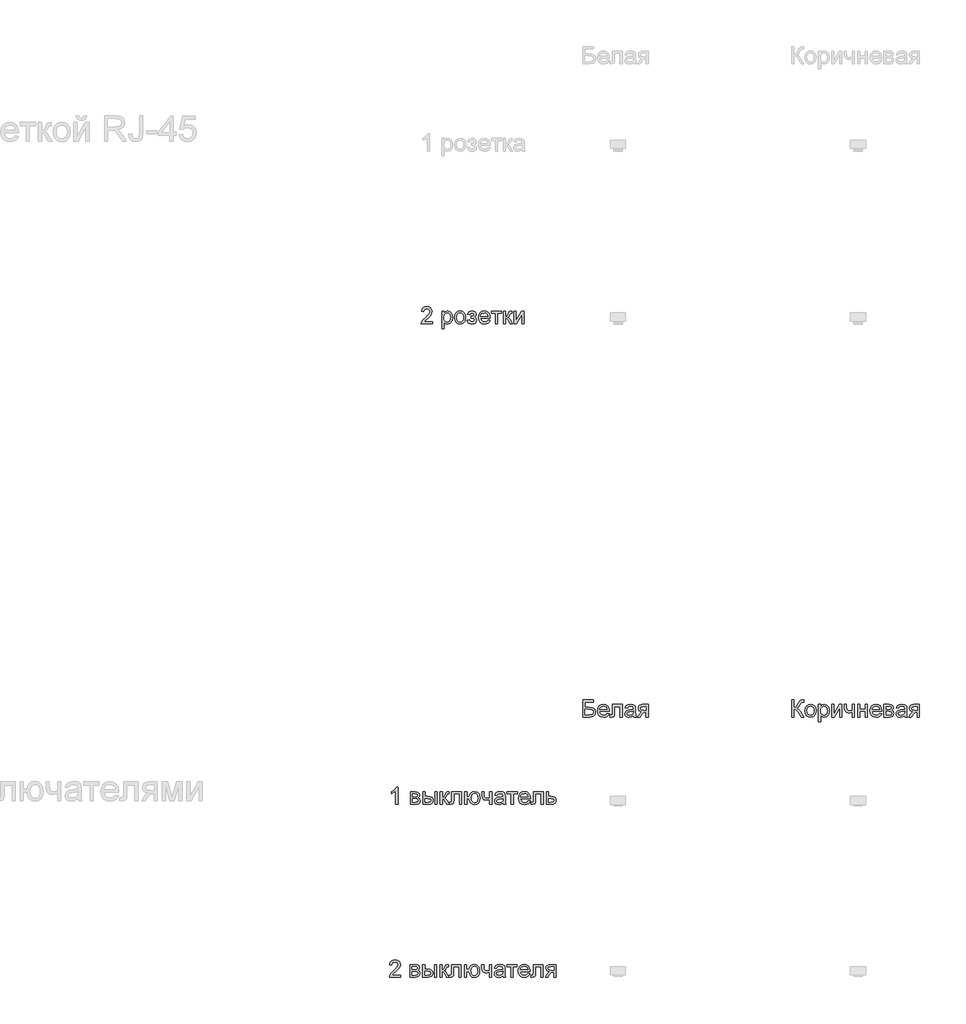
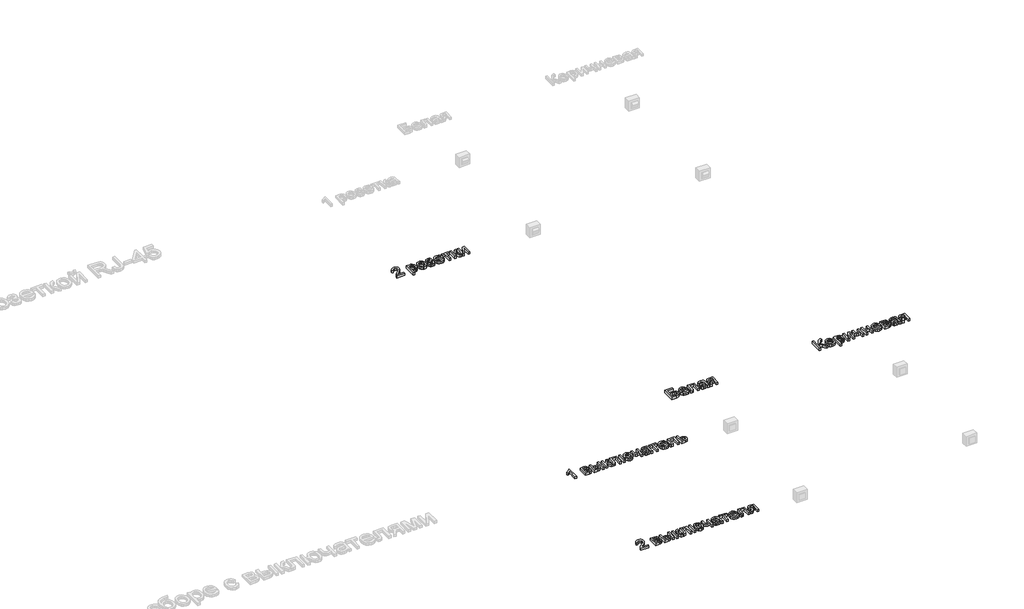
# One storey, part 17 of 48: 5 proxies.
"""IFC4 building model written with IfcOpenShell, lengths in millimetres."""

from ifc_helpers import new_model, si_unit, origin, origin_with_axes, place, context, project, spatial, polyline, outline, extrude, element, save

model = new_model("IFC4")

# Units and contexts
model_context = context("Model", 3, world=origin())
ifc_project = project(units=[si_unit("LENGTHUNIT", "METRE", prefix="MILLI")], contexts=[model_context])

# Site, building, storey
site = spatial("IfcSite", under=ifc_project)
building = spatial("IfcBuilding", under=site)
storey = spatial("IfcBuildingStorey", under=building, Name="Этаж 01", Elevation=0.0)

# Proxies
placement = place(None, origin())
element("IfcBuildingElementProxy", 1, Name="100 мм Arial", ObjectType="100 мм Arial", at=placement, inside=storey, context=model_context, shape_type="SweptSolid", body=[
    extrude(outline(polyline([(58644.580812, -932.0559001), (58644.580812, -944.6129388), (58578.6563585, -944.6129388), (58580.0052591, -935.9554492), (58587.6326791, -922.6258583), (58603.3535031, -908.069994), (58625.0340153, -887.1497712), (58630.4541434, -872.9250007), (58625.3405836, -861.4102943), (58611.9864672, -856.7136675), (58598.0682651, -861.2999297), (58592.7830271, -873.9795958), (58580.2259883, -872.4099659), (58583.2702118, -860.2637287), (58589.8522338, -851.3916413), (58599.6286979, -845.9653818), (58612.2562473, -844.1566287), (58624.9757673, -846.1677169), (58634.7338372, -852.2009817), (58640.9418459, -861.2140905), (58643.0111821, -872.1647113), (58640.7793647, -884.0718252), (58633.3604111, -896.3836093), (58615.3709816, -913.5882239), (58600.9254819, -925.6670161), (58595.2600992, -932.0559001), (58644.580812, -932.0559001)])), origin_with_axes(), (0.0, 0.0, 1.0), 20.0),
    extrude(outline(polyline([(58699.5178566, -972.8662761), (58699.5178566, -870.8403361), (58712.0748954, -870.8403361), (58712.0748954, -883.1521202), (58720.7569105, -872.7410597), (58732.4800834, -869.2707062), (58748.397111, -874.1267486), (58758.7959088, -887.8119588), (58762.3030504, -907.1625517), (58758.3421876, -927.5064261), (58746.8397439, -941.3633146), (58730.9595045, -946.1825687), (58720.0334092, -942.9574699), (58712.0748954, -934.8027523), (58712.0748954, -972.8662761), (58699.5178566, -972.8662761)]), holes=[polyline([(58712.0748954, -908.3152487), (58713.4329931, -919.5724377), (58717.5072862, -927.4451124), (58723.5190911, -932.0804255), (58730.6897243, -933.6255299), (58737.9768535, -932.0252432), (58744.1419426, -927.2243832), (58748.3449944, -919.0635343), (58749.7460117, -907.3832809), (58748.3787169, -896.1874055), (58744.2768327, -888.2043663), (58738.2742248, -883.4219003), (58731.2047591, -881.827745), (58724.1077023, -883.5230679), (58717.8751682, -888.6090364), (58713.5249636, -896.9262352), (58712.0748954, -908.3152487)])]), origin_with_axes(), (0.0, 0.0, 1.0), 20.0),
    extrude(outline(polyline([(58773.2904594, -907.7266375), (58776.0066548, -889.939543), (58784.155241, -877.4376865), (58794.2229449, -871.3124513), (58806.2772116, -869.2707062), (58819.4688468, -871.7569754), (58830.0056003, -879.2157828), (58836.9125847, -891.0585174), (58839.2149129, -906.6965679), (58835.1436855, -929.0392677), (58823.2856225, -941.6821456), (58806.2772116, -946.1825687), (58792.9261609, -943.7054966), (58782.4016701, -936.2742803), (58775.5682621, -924.1832254), (58773.2904594, -907.7266375)]), holes=[polyline([(58785.8474981, -907.702112), (58787.300632, -919.0666), (58791.6600337, -927.1630695), (58798.2205959, -932.0099148), (58806.2772116, -933.6255299), (58814.2970391, -932.0007178), (58820.8453386, -927.1262813), (58825.2047403, -918.9225128), (58826.6578741, -907.3097045), (58825.1955432, -896.2763104), (58820.8085504, -888.2902054), (58814.2510538, -883.4433601), (58806.2772116, -881.827745), (58798.2205959, -883.4372287), (58791.6600337, -888.2656799), (58787.300632, -896.3437554), (58785.8474981, -907.702112)])]), origin_with_axes(), (0.0, 0.0, 1.0), 20.0),
    extrude(outline(polyline([(58870.6075098, -911.6507121), (58870.6075098, -899.0936733), (58880.5157982, -898.603164), (58885.5189934, -895.9912018), (58887.8734381, -890.5342856), (58884.7219157, -884.1944525), (58876.5917236, -881.827745), (58868.1917514, -884.1821898), (58862.7593606, -891.2455241), (58848.632692, -889.6758942), (58858.0749965, -874.3720032), (58875.3163994, -869.2707062), (58885.813299, -870.8250077), (58893.7595501, -875.487912), (58898.7627452, -882.3090573), (58900.4304769, -890.3380818), (58898.057638, -898.1371801), (58890.9391214, -904.1704448), (58899.2409918, -911.9940686), (58902.0001067, -923.2512577), (58900.2496016, -932.4942928), (58894.9980861, -939.8182102), (58886.6011796, -944.5914791), (58875.4145012, -946.1825687), (58864.4730776, -944.7110407), (58856.1006965, -940.2964568), (58850.297358, -932.9388169), (58847.0630621, -922.638121), (58861.1897307, -921.0684912), (58866.8551135, -930.3391174), (58876.6162491, -933.6255299), (58885.7887735, -930.4740075), (58889.443068, -922.4173918), (58887.1744623, -915.8200414), (58882.3429455, -912.2883742), (58873.0600565, -911.5771357), (58870.6075098, -911.6507121)])), origin_with_axes(), (0.0, 0.0, 1.0), 20.0),
    extrude(outline(polyline([(58969.3470373, -922.638121), (58981.6588214, -924.2077508), (58977.2227777, -933.4845085), (58970.144115, -940.4190841), (58960.5822488, -944.7416975), (58948.6965947, -946.1825687), (58933.9629208, -943.6962995), (58922.6260239, -936.2374921), (58915.3971427, -924.2905243), (58912.9875157, -908.3397741), (58915.4216682, -891.8525294), (58922.7241258, -879.5223512), (58933.9077385, -871.8336175), (58947.9853561, -869.2707062), (58961.6245811, -871.8274861), (58972.5230852, -879.4978257), (58979.669193, -891.8034784), (58982.0512289, -908.2661977), (58981.9776525, -911.6507121), (58925.5445544, -911.6507121), (58927.7181239, -921.0500971), (58932.7673043, -927.9601472), (58940.0544335, -932.2091842), (58948.9418493, -933.6255299), (58961.2536334, -931.001305), (58969.3470373, -922.638121)]), holes=[polyline([(58925.5445544, -899.0936733), (58969.4941901, -899.0936733), (58964.4664695, -887.7138569), (58957.1456178, -883.299273), (58947.9363052, -881.827745), (58932.4729987, -886.5243718), (58927.6077593, -892.0150106), (58925.5445544, -899.0936733)])]), origin_with_axes(), (0.0, 0.0, 1.0), 20.0),
    extrude(outline(polyline([(58988.3297483, -870.8403361), (59047.9756824, -870.8403361), (59047.9756824, -883.3973748), (59024.4312347, -883.3973748), (59024.4312347, -944.6129388), (59011.874196, -944.6129388), (59011.874196, -883.3973748), (58988.3297483, -883.3973748), (58988.3297483, -870.8403361)])), origin_with_axes(), (0.0, 0.0, 1.0), 20.0),
    extrude(outline(polyline([(59058.9630914, -870.8403361), (59071.5201301, -870.8403361), (59071.5201301, -902.232933), (59079.9323651, -899.9765901), (59086.8240211, -886.8309401), (59092.5507175, -875.487912), (59097.6029636, -871.7968293), (59106.7877507, -870.8403361), (59109.1912464, -870.8403361), (59109.1912464, -883.4709512), (59105.8067321, -883.3973748), (59099.6753655, -884.72175), (59095.3588834, -892.9868322), (59090.2943746, -901.9263647), (59083.1942521, -906.3041604), (59091.1159777, -911.1908596), (59098.8905506, -921.4854241), (59112.3305061, -944.6129388), (59098.0566847, -944.6129388), (59084.8865093, -921.9759334), (59078.2646334, -912.3987388), (59071.5201301, -910.0810822), (59071.5201301, -944.6129388), (59058.9630914, -944.6129388), (59058.9630914, -870.8403361)])), origin_with_axes(), (0.0, 0.0, 1.0), 20.0),
    extrude(outline(polyline([(59120.1786554, -870.8403361), (59132.7356941, -870.8403361), (59132.7356941, -927.1017559), (59163.5887308, -870.8403361), (59179.8245895, -870.8403361), (59179.8245895, -944.6129388), (59167.2675507, -944.6129388), (59167.2675507, -888.6948756), (59136.6107178, -944.6129388), (59120.1786554, -944.6129388), (59120.1786554, -870.8403361)])), origin_with_axes(), (0.0, 0.0, 1.0), 20.0),
])
element("IfcBuildingElementProxy", 2, Name="100 мм Arial", ObjectType="100 мм Arial", at=placement, inside=storey, context=model_context, shape_type="SweptSolid", body=[
    extrude(outline(polyline([(59522.7568416, -3137.3663988), (59585.5420354, -3137.3663988), (59585.5420354, -3149.9234375), (59535.3138804, -3149.9234375), (59535.3138804, -3179.7464046), (59558.8338026, -3179.7464046), (59579.5578217, -3182.2970531), (59591.8941312, -3191.9355614), (59596.5294444, -3208.4166748), (59593.2307691, -3222.7272844), (59583.3837944, -3233.6043287), (59561.0901455, -3237.8227089), (59522.7568416, -3237.8227089), (59522.7568416, -3137.3663988)]), holes=[polyline([(59535.3138804, -3225.2656701), (59562.218317, -3225.2656701), (59578.5277521, -3221.1208663), (59582.6112422, -3215.9398616), (59583.9724056, -3208.6864549), (59580.8576714, -3198.8517429), (59572.187919, -3193.6032931), (59553.2665217, -3192.3034434), (59535.3138804, -3192.3034434), (59535.3138804, -3225.2656701)])]), origin_with_axes(), (0.0, 0.0, 1.0), 20.0),
    extrude(outline(polyline([(59663.876375, -3215.8478911), (59676.1881591, -3217.4175209), (59671.7521153, -3226.6942786), (59664.6734526, -3233.6288542), (59655.1115864, -3237.9514676), (59643.2259323, -3239.3923388), (59628.4922584, -3236.9060696), (59617.1553616, -3229.4472622), (59609.9264804, -3217.5002944), (59607.5168533, -3201.5495442), (59609.9510058, -3185.0622994), (59617.2534634, -3172.7321212), (59628.4370761, -3165.0433875), (59642.5146938, -3162.4804763), (59656.1539187, -3165.0372562), (59667.0524228, -3172.7075958), (59674.1985306, -3185.0132485), (59676.5805665, -3201.4759678), (59676.5069901, -3204.8604821), (59620.0738921, -3204.8604821), (59622.2474615, -3214.2598671), (59627.2966419, -3221.1699173), (59634.5837711, -3225.4189543), (59643.471187, -3226.8353), (59655.7829711, -3224.2110751), (59663.876375, -3215.8478911)]), holes=[polyline([(59620.0738921, -3192.3034434), (59664.0235278, -3192.3034434), (59658.9958072, -3180.923627), (59651.6749554, -3176.5090431), (59642.4656428, -3175.0375151), (59627.0023363, -3179.7341419), (59622.1370969, -3185.2247807), (59620.0738921, -3192.3034434)])]), origin_with_axes(), (0.0, 0.0, 1.0), 20.0),
    extrude(outline(polyline([(59695.4161247, -3164.0501062), (59751.9227991, -3164.0501062), (59751.9227991, -3237.7491325), (59739.3657604, -3237.7491325), (59739.3657604, -3176.6071449), (59707.9731634, -3176.6071449), (59707.9731634, -3211.8011891), (59707.1270349, -3228.0370478), (59702.479459, -3234.8919157), (59691.4920501, -3237.8227089), (59681.2894561, -3237.1850468), (59681.2894561, -3225.2656701), (59686.9057879, -3225.2656701), (59692.5834333, -3224.493118), (59694.8520389, -3222.0405713), (59695.4161247, -3211.0899506), (59695.4161247, -3164.0501062)])), origin_with_axes(), (0.0, 0.0, 1.0), 20.0),
    extrude(outline(polyline([(59817.8472527, -3228.4049298), (59805.6703586, -3236.9152667), (59792.2181403, -3239.3923388), (59781.7243064, -3237.9024167), (59773.9834561, -3233.4326504), (59769.2101872, -3226.6452276), (59767.6190976, -3218.2023358), (59770.0225933, -3208.269522), (59776.3379009, -3201.0590349), (59785.1302806, -3196.9387565), (59795.9950622, -3195.0502956), (59817.7736763, -3190.7338135), (59817.8472527, -3187.9379104), (59814.3891619, -3178.6672841), (59800.507748, -3175.0375151), (59787.8035564, -3177.4532735), (59781.7457662, -3186.024924), (59769.1887274, -3184.4552941), (59774.6211182, -3172.192561), (59785.5594762, -3165.0065993), (59802.1264287, -3162.4804763), (59817.3444806, -3164.7122937), (59825.9406566, -3170.3163628), (59829.7911548, -3178.8389624), (59830.4042914, -3189.8263713), (59830.4042914, -3205.4490933), (59831.0419536, -3227.2644957), (59833.5435511, -3237.8227089), (59820.9865124, -3237.8227089), (59817.8472527, -3228.4049298)]), holes=[polyline([(59817.8472527, -3203.2908523), (59797.5892175, -3207.1413505), (59786.7857495, -3209.1769642), (59781.892919, -3212.4879022), (59780.1761364, -3217.3194191), (59783.91627, -3224.1129732), (59794.8914162, -3226.8353), (59807.5956077, -3223.8309304), (59815.7871135, -3216.5591296), (59817.7736763, -3206.8470449), (59817.8472527, -3203.2908523)])]), origin_with_axes(), (0.0, 0.0, 1.0), 20.0),
    extrude(outline(polyline([(59904.1768942, -3164.0501062), (59904.1768942, -3237.8227089), (59891.6198554, -3237.8227089), (59891.6198554, -3209.5693717), (59884.7772503, -3209.5693717), (59875.4575731, -3211.163527), (59866.7019816, -3221.8811558), (59856.6955914, -3237.8227089), (59842.1765153, -3237.8227089), (59854.782605, -3217.6627756), (59865.4757083, -3207.2149269), (59856.8917951, -3204.5845707), (59850.8585304, -3199.5875069), (59846.1005899, -3185.3627364), (59847.725402, -3176.7665604), (59852.5998385, -3169.9607435), (59860.5522209, -3165.5277655), (59871.4108712, -3164.0501062), (59904.1768942, -3164.0501062)]), holes=[polyline([(59891.6198554, -3176.6071449), (59875.0651657, -3176.6071449), (59861.6619983, -3179.5134127), (59858.6576287, -3186.3192296), (59863.0844753, -3194.4248962), (59878.7685111, -3197.0123329), (59891.6198554, -3197.0123329), (59891.6198554, -3176.6071449)])]), origin_with_axes(), (0.0, 0.0, 1.0), 20.0),
])
element("IfcBuildingElementProxy", 3, Name="100 мм Arial", ObjectType="100 мм Arial", at=placement, inside=storey, context=model_context, shape_type="SweptSolid", body=[
    extrude(outline(polyline([(60740.6797795, -3137.3663988), (60753.2368182, -3137.3663988), (60753.2368182, -3181.3160345), (60767.2776477, -3177.9928338), (60777.0755715, -3161.1806266), (60784.0040158, -3147.1397971), (60791.852165, -3140.1868274), (60803.0725658, -3137.3663988), (60811.3131225, -3137.5135516), (60811.3131225, -3150.0705903), (60808.5417448, -3149.9970139), (60805.7703671, -3149.9234375), (60795.9601806, -3152.9400699), (60788.5044388, -3165.8649907), (60779.6139573, -3181.6103401), (60770.9442049, -3186.8097389), (60780.6378955, -3192.4873844), (60790.196696, -3204.3209219), (60811.3131225, -3237.8227089), (60796.7449955, -3237.8227089), (60778.890456, -3209.5203208), (60766.3211545, -3194.7437273), (60753.2368182, -3190.7338135), (60753.2368182, -3237.8227089), (60740.6797795, -3237.8227089), (60740.6797795, -3137.3663988)])), origin_with_axes(), (0.0, 0.0, 1.0), 20.0),
    extrude(outline(polyline([(60817.5916419, -3200.9364075), (60820.3078373, -3183.1493131), (60828.4564235, -3170.6474566), (60838.5241274, -3164.5222214), (60850.5783941, -3162.4804763), (60863.7700294, -3164.9667455), (60874.3067828, -3172.4255529), (60881.2137673, -3184.2682875), (60883.5160955, -3199.9063379), (60879.444868, -3222.2490378), (60867.5868051, -3234.8919157), (60850.5783941, -3239.3923388), (60837.2273434, -3236.9152667), (60826.7028527, -3229.4840504), (60819.8694446, -3217.3929955), (60817.5916419, -3200.9364075)]), holes=[polyline([(60830.1486807, -3200.9118821), (60831.6018146, -3212.27637), (60835.9612162, -3220.3728396), (60842.5217785, -3225.2196849), (60850.5783941, -3226.8353), (60858.5982216, -3225.2104878), (60865.1465212, -3220.3360514), (60869.5059228, -3212.1322829), (60870.9590567, -3200.5194746), (60869.4967258, -3189.4860804), (60865.109733, -3181.4999755), (60858.5522364, -3176.6531302), (60850.5783941, -3175.0375151), (60842.5217785, -3176.6469988), (60835.9612162, -3181.47545), (60831.6018146, -3189.5535255), (60830.1486807, -3200.9118821)])]), origin_with_axes(), (0.0, 0.0, 1.0), 20.0),
    extrude(outline(polyline([(60897.6427641, -3266.0760461), (60897.6427641, -3164.0501062), (60910.1998028, -3164.0501062), (60910.1998028, -3176.3618903), (60918.8818179, -3165.9508298), (60930.6049908, -3162.4804763), (60946.5220185, -3167.3365186), (60956.9208162, -3181.0217289), (60960.4279579, -3200.3723218), (60956.4670951, -3220.7161961), (60944.9646514, -3234.5730846), (60929.0844119, -3239.3923388), (60918.1583167, -3236.1672399), (60910.1998028, -3228.0125224), (60910.1998028, -3266.0760461), (60897.6427641, -3266.0760461)]), holes=[polyline([(60910.1998028, -3201.5250187), (60911.5579005, -3212.7822078), (60915.6321936, -3220.6548825), (60921.6439986, -3225.2901956), (60928.8146318, -3226.8353), (60936.101761, -3225.2350133), (60942.2668501, -3220.4341533), (60946.4699019, -3212.2733044), (60947.8709191, -3200.593051), (60946.5036244, -3189.3971756), (60942.4017401, -3181.4141363), (60936.3991323, -3176.6316704), (60929.3296666, -3175.0375151), (60922.2326098, -3176.7328379), (60916.0000756, -3181.8188065), (60911.649871, -3190.1360053), (60910.1998028, -3201.5250187)])]), origin_with_axes(), (0.0, 0.0, 1.0), 20.0),
    extrude(outline(polyline([(60974.5546265, -3164.0501062), (60987.1116653, -3164.0501062), (60987.1116653, -3220.3115259), (61017.964702, -3164.0501062), (61034.2005607, -3164.0501062), (61034.2005607, -3237.8227089), (61021.6435219, -3237.8227089), (61021.6435219, -3181.9046456), (60990.986689, -3237.8227089), (60974.5546265, -3237.8227089), (60974.5546265, -3164.0501062)])), origin_with_axes(), (0.0, 0.0, 1.0), 20.0),
    extrude(outline(polyline([(61048.3272293, -3164.0501062), (61060.8842681, -3164.0501062), (61060.8842681, -3178.2013002), (61061.9020749, -3191.4695775), (61066.7949054, -3198.6555392), (61076.5069901, -3201.7212225), (61093.8464948, -3197.9197752), (61093.8464948, -3164.0501062), (61106.4035336, -3164.0501062), (61106.4035336, -3237.8227089), (61093.8464948, -3237.8227089), (61093.8464948, -3209.9617791), (61073.1470012, -3214.2782612), (61058.909968, -3209.7778382), (61050.5345213, -3198.753641), (61048.3272293, -3184.4062432), (61048.3272293, -3164.0501062)])), origin_with_axes(), (0.0, 0.0, 1.0), 20.0),
    extrude(outline(polyline([(61125.2390917, -3164.0501062), (61137.7961305, -3164.0501062), (61137.7961305, -3192.3034434), (61170.7583573, -3192.3034434), (61170.7583573, -3164.0501062), (61183.3153961, -3164.0501062), (61183.3153961, -3237.8227089), (61170.7583573, -3237.8227089), (61170.7583573, -3204.8604821), (61137.7961305, -3204.8604821), (61137.7961305, -3237.8227089), (61125.2390917, -3237.8227089), (61125.2390917, -3164.0501062)])), origin_with_axes(), (0.0, 0.0, 1.0), 20.0),
    extrude(outline(polyline([(61253.8015863, -3215.8478911), (61266.1133704, -3217.4175209), (61261.6773267, -3226.6942786), (61254.598664, -3233.6288542), (61245.0367978, -3237.9514676), (61233.1511437, -3239.3923388), (61218.4174698, -3236.9060696), (61207.0805729, -3229.4472622), (61199.8516917, -3217.5002944), (61197.4420647, -3201.5495442), (61199.8762172, -3185.0622994), (61207.1786748, -3172.7321212), (61218.3622875, -3165.0433875), (61232.4399051, -3162.4804763), (61246.0791301, -3165.0372562), (61256.9776342, -3172.7075958), (61264.123742, -3185.0132485), (61266.5057779, -3201.4759678), (61266.4322015, -3204.8604821), (61209.9991034, -3204.8604821), (61212.1726729, -3214.2598671), (61217.2218533, -3221.1699173), (61224.5089825, -3225.4189543), (61233.3963983, -3226.8353), (61245.7081824, -3224.2110751), (61253.8015863, -3215.8478911)]), holes=[polyline([(61209.9991034, -3192.3034434), (61253.9487391, -3192.3034434), (61248.9210185, -3180.923627), (61241.6001668, -3176.5090431), (61232.3908542, -3175.0375151), (61216.9275477, -3179.7341419), (61212.0623083, -3185.2247807), (61209.9991034, -3192.3034434)])]), origin_with_axes(), (0.0, 0.0, 1.0), 20.0),
    extrude(outline(polyline([(61279.0628167, -3164.0501062), (61306.7275427, -3164.0501062), (61321.8965436, -3165.7301006), (61330.4314059, -3171.8859926), (61333.9998613, -3182.6158842), (61331.8416202, -3191.3346875), (61325.3423717, -3197.5518932), (61333.7791321, -3204.3577101), (61337.139121, -3216.1912476), (61335.0115368, -3225.7623108), (61329.9531593, -3232.5006827), (61321.9455946, -3236.4922024), (61310.9704484, -3237.8227089), (61279.0628167, -3237.8227089), (61279.0628167, -3164.0501062)]), holes=[polyline([(61291.6198554, -3192.3034434), (61304.0297414, -3192.3034434), (61314.2691236, -3191.6657813), (61319.2477933, -3189.1151328), (61321.4428225, -3184.5043451), (61317.5923243, -3178.348453), (61304.4221489, -3176.6071449), (61291.6198554, -3176.6071449), (61291.6198554, -3192.3034434)]), polyline([(61291.6198554, -3225.2656701), (61307.0218483, -3225.2656701), (61320.6825331, -3222.9970645), (61324.5820822, -3215.161178), (61322.4361039, -3209.1156506), (61316.8442976, -3205.5962461), (61305.795575, -3204.8604821), (61291.6198554, -3204.8604821), (61291.6198554, -3225.2656701)])]), origin_with_axes(), (0.0, 0.0, 1.0), 20.0),
    extrude(outline(polyline([(61399.9243148, -3228.4049298), (61387.7474208, -3236.9152667), (61374.2952025, -3239.3923388), (61363.8013686, -3237.9024167), (61356.0605183, -3233.4326504), (61351.2872494, -3226.6452276), (61349.6961597, -3218.2023358), (61352.0996554, -3208.269522), (61358.414963, -3201.0590349), (61367.2073427, -3196.9387565), (61378.0721243, -3195.0502956), (61399.8507384, -3190.7338135), (61399.9243148, -3187.9379104), (61396.4662241, -3178.6672841), (61382.5848101, -3175.0375151), (61369.8806185, -3177.4532735), (61363.8228284, -3186.024924), (61351.2657896, -3184.4552941), (61356.6981804, -3172.192561), (61367.6365384, -3165.0065993), (61384.2034909, -3162.4804763), (61399.4215428, -3164.7122937), (61408.0177187, -3170.3163628), (61411.8682169, -3178.8389624), (61412.4813536, -3189.8263713), (61412.4813536, -3205.4490933), (61413.1190157, -3227.2644957), (61415.6206133, -3237.8227089), (61403.0635745, -3237.8227089), (61399.9243148, -3228.4049298)]), holes=[polyline([(61399.9243148, -3203.2908523), (61379.6662796, -3207.1413505), (61368.8628117, -3209.1769642), (61363.9699812, -3212.4879022), (61362.2531985, -3217.3194191), (61365.9933321, -3224.1129732), (61376.9684783, -3226.8353), (61389.6726699, -3223.8309304), (61397.8641756, -3216.5591296), (61399.8507384, -3206.8470449), (61399.9243148, -3203.2908523)])]), origin_with_axes(), (0.0, 0.0, 1.0), 20.0),
    extrude(outline(polyline([(61486.2539563, -3164.0501062), (61486.2539563, -3237.8227089), (61473.6969176, -3237.8227089), (61473.6969176, -3209.5693717), (61466.8543125, -3209.5693717), (61457.5346353, -3211.163527), (61448.7790438, -3221.8811558), (61438.7726535, -3237.8227089), (61424.2535774, -3237.8227089), (61436.8596671, -3217.6627756), (61447.5527705, -3207.2149269), (61438.9688572, -3204.5845707), (61432.9355925, -3199.5875069), (61428.177652, -3185.3627364), (61429.8024642, -3176.7665604), (61434.6769006, -3169.9607435), (61442.6292831, -3165.5277655), (61453.4879333, -3164.0501062), (61486.2539563, -3164.0501062)]), holes=[polyline([(61473.6969176, -3176.6071449), (61457.1422278, -3176.6071449), (61443.7390604, -3179.5134127), (61440.7346908, -3186.3192296), (61445.1615375, -3194.4248962), (61460.8455732, -3197.0123329), (61473.6969176, -3197.0123329), (61473.6969176, -3176.6071449)])]), origin_with_axes(), (0.0, 0.0, 1.0), 20.0),
])
element("IfcBuildingElementProxy", 4, Name="100 мм Arial", ObjectType="100 мм Arial", at=placement, inside=storey, context=model_context, shape_type="SweptSolid", body=[
    extrude(outline(polyline([(58443.6681917, -3747.1435879), (58431.1111529, -3747.1435879), (58431.1111529, -3668.8582993), (58419.2163017, -3677.3318479), (58405.9970754, -3683.671681), (58405.9970754, -3671.8013553), (58424.4034379, -3660.0536569), (58435.5747878, -3646.6872777), (58443.6681917, -3646.6872777), (58443.6681917, -3747.1435879)])), origin_with_axes(), (0.0, 0.0, 1.0), 20.0),
    extrude(outline(polyline([(58515.8711646, -3673.3709851), (58543.5358906, -3673.3709851), (58558.7048916, -3675.0509795), (58567.2397539, -3681.2068716), (58570.8082092, -3691.9367631), (58568.6499682, -3700.6555664), (58562.1507196, -3706.8727721), (58570.58748, -3713.678589), (58573.9474689, -3725.5121265), (58571.8198847, -3735.0831898), (58566.7615073, -3741.8215617), (58558.7539425, -3745.8130813), (58547.7787963, -3747.1435879), (58515.8711646, -3747.1435879), (58515.8711646, -3673.3709851)]), holes=[polyline([(58528.4282034, -3701.6243223), (58540.8380893, -3701.6243223), (58551.0774715, -3700.9866602), (58556.0561412, -3698.4360117), (58558.2511705, -3693.825224), (58554.4006722, -3687.669332), (58541.2304968, -3685.9280239), (58528.4282034, -3685.9280239), (58528.4282034, -3701.6243223)]), polyline([(58528.4282034, -3734.5865491), (58543.8301962, -3734.5865491), (58557.490881, -3732.3179435), (58561.3904301, -3724.482057), (58559.2444518, -3718.4365295), (58553.6526455, -3714.9171251), (58542.6039229, -3714.1813611), (58528.4282034, -3714.1813611), (58528.4282034, -3734.5865491)])]), origin_with_axes(), (0.0, 0.0, 1.0), 20.0),
    extrude(outline(polyline([(58589.6437674, -3673.3709851), (58602.2008061, -3673.3709851), (58602.2008061, -3700.0546925), (58617.7254263, -3700.0546925), (58631.1439221, -3701.627388), (58641.085933, -3706.3454746), (58647.2387594, -3713.8288075), (58649.2897015, -3723.697242), (58647.5698532, -3732.6827598), (58642.4103082, -3740.2641946), (58633.4738414, -3745.4237395), (58620.4232276, -3747.1435879), (58589.6437674, -3747.1435879), (58589.6437674, -3673.3709851)]), holes=[polyline([(58602.2008061, -3734.5865491), (58615.1012014, -3734.5865491), (58631.7539931, -3731.9500615), (58636.7326628, -3723.7217675), (58633.0415801, -3715.9962456), (58616.7444077, -3712.6117313), (58602.2008061, -3712.6117313), (58602.2008061, -3734.5865491)])]), origin_with_axes(), (0.0, 0.0, 1.0), 20.0),
    extrude(outline(polyline([(58658.7074806, -3673.3709851), (58671.2645194, -3673.3709851), (58671.2645194, -3747.1435879), (58658.7074806, -3747.1435879), (58658.7074806, -3673.3709851)])), origin_with_axes(), (0.0, 0.0, 1.0), 20.0),
    extrude(outline(polyline([(58690.1000775, -3673.3709851), (58702.6571163, -3673.3709851), (58702.6571163, -3704.763582), (58711.0693512, -3702.5072391), (58717.9610073, -3689.3615892), (58723.6877037, -3678.018561), (58728.7399498, -3674.3274783), (58737.9247369, -3673.3709851), (58740.3282326, -3673.3709851), (58740.3282326, -3686.0016003), (58736.9437182, -3685.9280239), (58730.8123517, -3687.252399), (58726.4958696, -3695.5174812), (58721.4313608, -3704.4570137), (58714.3312383, -3708.8348094), (58722.2529639, -3713.7215086), (58730.0275367, -3724.0160731), (58743.4674923, -3747.1435879), (58729.1936709, -3747.1435879), (58716.0234955, -3724.5065824), (58709.4016195, -3714.9293878), (58702.6571163, -3712.6117313), (58702.6571163, -3747.1435879), (58690.1000775, -3747.1435879), (58690.1000775, -3673.3709851)])), origin_with_axes(), (0.0, 0.0, 1.0), 20.0),
    extrude(outline(polyline([(58757.5941609, -3673.3709851), (58814.1008354, -3673.3709851), (58814.1008354, -3747.0700115), (58801.5437966, -3747.0700115), (58801.5437966, -3685.9280239), (58770.1511997, -3685.9280239), (58770.1511997, -3721.1220681), (58769.3050711, -3737.3579268), (58764.6574952, -3744.2127946), (58753.6700863, -3747.1435879), (58743.4674923, -3746.5059257), (58743.4674923, -3734.5865491), (58749.0838241, -3734.5865491), (58754.7614695, -3733.8139969), (58757.0300752, -3731.3614503), (58757.5941609, -3720.4108295), (58757.5941609, -3673.3709851)])), origin_with_axes(), (0.0, 0.0, 1.0), 20.0),
    extrude(outline(polyline([(58832.9363935, -3673.3709851), (58845.4934323, -3673.3709851), (58845.4934323, -3701.6243223), (58859.6201009, -3701.6243223), (58862.8789222, -3688.8220289), (58869.3689738, -3679.4533008), (58878.6794539, -3673.7143416), (58890.3995612, -3671.8013553), (58907.7758541, -3676.3017783), (58918.2727537, -3688.6994016), (58922.4052947, -3709.9875064), (58920.2685135, -3726.7383999), (58913.8581697, -3738.8785057), (58903.7874001, -3746.2545397), (58890.6693413, -3748.7132177), (58878.4096738, -3746.4078239), (58868.853939, -3739.4916424), (58862.4435952, -3728.5532844), (58859.6201009, -3714.1813611), (58845.4934323, -3714.1813611), (58845.4934323, -3747.1435879), (58832.9363935, -3747.1435879), (58832.9363935, -3673.3709851)]), holes=[polyline([(58891.2089016, -3684.358394), (58883.2044025, -3685.9832062), (58877.1925975, -3690.8576426), (58872.1771397, -3709.0800641), (58873.4402012, -3721.2171043), (58877.2293857, -3729.6201422), (58883.1338918, -3734.5221697), (58890.7429177, -3736.1561789), (58898.3734034, -3734.6447971), (58904.4894416, -3730.1106515), (58908.5085524, -3722.2103856), (58909.848256, -3710.600643), (58905.2129428, -3690.9189563), (58899.3942759, -3685.9985346), (58891.2089016, -3684.358394)])]), origin_with_axes(), (0.0, 0.0, 1.0), 20.0),
    extrude(outline(polyline([(58933.3927037, -3673.3709851), (58945.9497424, -3673.3709851), (58945.9497424, -3687.5221792), (58946.9675493, -3700.7904565), (58951.8603798, -3707.9764181), (58961.5724645, -3711.0421014), (58978.9119692, -3707.2406541), (58978.9119692, -3673.3709851), (58991.469008, -3673.3709851), (58991.469008, -3747.1435879), (58978.9119692, -3747.1435879), (58978.9119692, -3719.2826581), (58958.2124756, -3723.5991402), (58943.9754424, -3719.0987171), (58935.5999956, -3708.07452), (58933.3927037, -3693.7271222), (58933.3927037, -3673.3709851)])), origin_with_axes(), (0.0, 0.0, 1.0), 20.0),
    extrude(outline(polyline([(59057.3934615, -3737.7258088), (59045.2165675, -3746.2361456), (59031.7643492, -3748.7132177), (59021.2705153, -3747.2232956), (59013.5296649, -3742.7535294), (59008.7563961, -3735.9661066), (59007.1653064, -3727.5232148), (59009.5688021, -3717.5904009), (59015.8841097, -3710.3799138), (59024.6764894, -3706.2596355), (59035.541271, -3704.3711746), (59057.3198851, -3700.0546925), (59057.3934615, -3697.2587893), (59053.9353708, -3687.988163), (59040.0539568, -3684.358394), (59027.3497652, -3686.7741525), (59021.291975, -3695.3458029), (59008.7349363, -3693.7761731), (59014.1673271, -3681.5134399), (59025.1056851, -3674.3274783), (59041.6726376, -3671.8013553), (59056.8906894, -3674.0331727), (59065.4868654, -3679.6372417), (59069.3373636, -3688.1598413), (59069.9505003, -3699.1472502), (59069.9505003, -3714.7699723), (59070.5881624, -3736.5853746), (59073.08976, -3747.1435879), (59060.5327212, -3747.1435879), (59057.3934615, -3737.7258088)]), holes=[polyline([(59057.3934615, -3712.6117313), (59037.1354263, -3716.4622295), (59026.3319584, -3718.4978432), (59021.4391278, -3721.8087811), (59019.7223452, -3726.640298), (59023.4624788, -3733.4338522), (59034.437625, -3736.1561789), (59047.1418166, -3733.1518093), (59055.3333223, -3725.8800085), (59057.3198851, -3716.1679239), (59057.3934615, -3712.6117313)])]), origin_with_axes(), (0.0, 0.0, 1.0), 20.0),
    extrude(outline(polyline([(59080.9379092, -3673.3709851), (59140.5838434, -3673.3709851), (59140.5838434, -3685.9280239), (59117.0393957, -3685.9280239), (59117.0393957, -3747.1435879), (59104.4823569, -3747.1435879), (59104.4823569, -3685.9280239), (59080.9379092, -3685.9280239), (59080.9379092, -3673.3709851)])), origin_with_axes(), (0.0, 0.0, 1.0), 20.0),
    extrude(outline(polyline([(59203.2218844, -3725.16877), (59215.5336685, -3726.7383999), (59211.0976248, -3736.0151575), (59204.0189621, -3742.9497331), (59194.4570959, -3747.2723466), (59182.5714417, -3748.7132177), (59167.8377678, -3746.2269486), (59156.500871, -3738.7681411), (59149.2719898, -3726.8211733), (59146.8623627, -3710.8704231), (59149.2965153, -3694.3831784), (59156.5989729, -3682.0530002), (59167.7825855, -3674.3642665), (59181.8602032, -3671.8013553), (59195.4994282, -3674.3581351), (59206.3979323, -3682.0284747), (59213.54404, -3694.3341275), (59215.926076, -3710.7968467), (59215.8524996, -3714.1813611), (59159.4194015, -3714.1813611), (59161.592971, -3723.5807461), (59166.6421513, -3730.4907962), (59173.9292805, -3734.7398333), (59182.8166964, -3736.1561789), (59195.1284805, -3733.531954), (59203.2218844, -3725.16877)]), holes=[polyline([(59159.4194015, -3701.6243223), (59203.3690372, -3701.6243223), (59198.3413166, -3690.2445059), (59191.0204649, -3685.829922), (59181.8111523, -3684.358394), (59166.3478457, -3689.0550208), (59161.4826064, -3694.5456596), (59159.4194015, -3701.6243223)])]), origin_with_axes(), (0.0, 0.0, 1.0), 20.0),
    extrude(outline(polyline([(59234.7616341, -3673.3709851), (59291.2683086, -3673.3709851), (59291.2683086, -3747.0700115), (59278.7112698, -3747.0700115), (59278.7112698, -3685.9280239), (59247.3186729, -3685.9280239), (59247.3186729, -3721.1220681), (59246.4725443, -3737.3579268), (59241.8249684, -3744.2127946), (59230.8375595, -3747.1435879), (59220.6349655, -3746.5059257), (59220.6349655, -3734.5865491), (59226.2512973, -3734.5865491), (59231.9289428, -3733.8139969), (59234.1975484, -3731.3614503), (59234.7616341, -3720.4108295), (59234.7616341, -3673.3709851)])), origin_with_axes(), (0.0, 0.0, 1.0), 20.0),
    extrude(outline(polyline([(59310.1038667, -3673.3709851), (59322.6609055, -3673.3709851), (59322.6609055, -3700.0546925), (59337.1309306, -3700.0546925), (59349.6757067, -3701.627388), (59358.9585957, -3706.3454746), (59364.6975548, -3713.8288075), (59366.6105412, -3723.697242), (59364.9826634, -3732.6827598), (59360.0990299, -3740.2641946), (59351.6346783, -3745.4237395), (59339.2646462, -3747.1435879), (59310.1038667, -3747.1435879), (59310.1038667, -3673.3709851)]), holes=[polyline([(59322.6609055, -3734.5865491), (59334.3840784, -3734.5865491), (59349.5285539, -3731.9500615), (59354.0535024, -3723.7217675), (59350.7057763, -3715.9962456), (59335.8801319, -3712.6117313), (59322.6609055, -3712.6117313), (59322.6609055, -3734.5865491)])]), origin_with_axes(), (0.0, 0.0, 1.0), 20.0),
])
element("IfcBuildingElementProxy", 5, Name="100 мм Arial", ObjectType="100 мм Arial", at=placement, inside=storey, context=model_context, shape_type="SweptSolid", body=[
    extrude(outline(polyline([(58459.3644901, -4741.7537938), (58459.3644901, -4754.3108326), (58393.4400366, -4754.3108326), (58394.7889373, -4745.6533429), (58402.4163573, -4732.323752), (58418.1371812, -4717.7678877), (58439.8176935, -4696.8476649), (58445.2378215, -4682.6228944), (58440.1242618, -4671.108188), (58426.7701454, -4666.4115612), (58412.8519432, -4670.9978234), (58407.5667052, -4683.6774895), (58395.0096665, -4682.1078596), (58398.05389, -4669.9616224), (58404.635912, -4661.089535), (58414.412376, -4655.6632756), (58427.0399255, -4653.8545224), (58439.7594455, -4655.8656106), (58449.5175154, -4661.8988754), (58455.7255241, -4670.9119843), (58457.7948603, -4681.862605), (58455.5630429, -4693.7697189), (58448.1440893, -4706.081503), (58430.1546597, -4723.2861176), (58415.7091601, -4735.3649098), (58410.0437773, -4741.7537938), (58459.3644901, -4741.7537938)])), origin_with_axes(), (0.0, 0.0, 1.0), 20.0),
    extrude(outline(polyline([(58514.3015348, -4680.5382298), (58541.9662608, -4680.5382298), (58557.1352617, -4682.2182242), (58565.670124, -4688.3741163), (58569.2385794, -4699.1040078), (58567.0803383, -4707.8228111), (58560.5810898, -4714.0400168), (58569.0178502, -4720.8458337), (58572.3778391, -4732.6793712), (58570.2502549, -4742.2504345), (58565.1918774, -4748.9888064), (58557.1843127, -4752.980326), (58546.2091665, -4754.3108326), (58514.3015348, -4754.3108326), (58514.3015348, -4680.5382298)]), holes=[polyline([(58526.8585735, -4708.791567), (58539.2684595, -4708.791567), (58549.5078417, -4708.1539049), (58554.4865114, -4705.6032564), (58556.6815406, -4700.9924687), (58552.8310424, -4694.8365767), (58539.660867, -4693.0952686), (58526.8585735, -4693.0952686), (58526.8585735, -4708.791567)]), polyline([(58526.8585735, -4741.7537938), (58542.2605664, -4741.7537938), (58555.9212511, -4739.4851882), (58559.8208003, -4731.6493017), (58557.674822, -4725.6037742), (58552.0830157, -4722.0843698), (58541.0342931, -4721.3486058), (58526.8585735, -4721.3486058), (58526.8585735, -4741.7537938)])]), origin_with_axes(), (0.0, 0.0, 1.0), 20.0),
    extrude(outline(polyline([(58657.1378508, -4680.5382298), (58669.6948895, -4680.5382298), (58669.6948895, -4754.3108326), (58657.1378508, -4754.3108326), (58657.1378508, -4680.5382298)])), origin_with_axes(), (0.0, 0.0, 1.0), 20.0),
    extrude(outline(polyline([(58588.0741375, -4680.5382298), (58600.6311763, -4680.5382298), (58600.6311763, -4707.2219372), (58616.1557965, -4707.2219372), (58629.5742923, -4708.7946327), (58639.5163032, -4713.5127193), (58645.6691296, -4720.9960522), (58647.7200717, -4730.8644867), (58646.0002234, -4739.8500045), (58640.8406784, -4747.4314392), (58631.9042116, -4752.5909842), (58618.8535978, -4754.3108326), (58588.0741375, -4754.3108326), (58588.0741375, -4680.5382298)]), holes=[polyline([(58600.6311763, -4741.7537938), (58613.5315716, -4741.7537938), (58630.1843632, -4739.1173062), (58635.1630329, -4730.8890122), (58631.4719502, -4723.1634903), (58615.1747778, -4719.7789759), (58600.6311763, -4719.7789759), (58600.6311763, -4741.7537938)])]), origin_with_axes(), (0.0, 0.0, 1.0), 20.0),
    extrude(outline(polyline([(58688.5304477, -4680.5382298), (58701.0874864, -4680.5382298), (58701.0874864, -4711.9308267), (58709.4997214, -4709.6744838), (58716.3913774, -4696.5288338), (58722.1180738, -4685.1858057), (58727.1703199, -4681.494723), (58736.3551071, -4680.5382298), (58738.7586028, -4680.5382298), (58738.7586028, -4693.168845), (58735.3740884, -4693.0952686), (58729.2427218, -4694.4196437), (58724.9262397, -4702.6847259), (58719.8617309, -4711.6242584), (58712.7616084, -4716.0020541), (58720.6833341, -4720.8887533), (58728.4579069, -4731.1833178), (58741.8978624, -4754.3108326), (58727.624041, -4754.3108326), (58714.4538656, -4731.6738271), (58707.8319897, -4722.0966325), (58701.0874864, -4719.7789759), (58701.0874864, -4754.3108326), (58688.5304477, -4754.3108326), (58688.5304477, -4680.5382298)])), origin_with_axes(), (0.0, 0.0, 1.0), 20.0),
    extrude(outline(polyline([(58756.0245311, -4680.5382298), (58812.5312055, -4680.5382298), (58812.5312055, -4754.2372562), (58799.9741667, -4754.2372562), (58799.9741667, -4693.0952686), (58768.5815698, -4693.0952686), (58768.5815698, -4728.2893128), (58767.7354412, -4744.5251715), (58763.0878654, -4751.3800393), (58752.1004564, -4754.3108326), (58741.8978624, -4753.6731704), (58741.8978624, -4741.7537938), (58747.5141942, -4741.7537938), (58753.1918397, -4740.9812416), (58755.4604453, -4738.528695), (58756.0245311, -4727.5780742), (58756.0245311, -4680.5382298)])), origin_with_axes(), (0.0, 0.0, 1.0), 20.0),
    extrude(outline(polyline([(58831.3667637, -4680.5382298), (58843.9238024, -4680.5382298), (58843.9238024, -4708.791567), (58858.0504711, -4708.791567), (58861.3092924, -4695.9892736), (58867.7993439, -4686.6205454), (58877.1098241, -4680.8815863), (58888.8299313, -4678.9685999), (58906.2062242, -4683.469023), (58916.7031238, -4695.8666463), (58920.8356649, -4717.154751), (58918.6988836, -4733.9056446), (58912.2885399, -4746.0457504), (58902.2177703, -4753.4217844), (58889.0997114, -4755.8804624), (58876.840044, -4753.5750686), (58867.2843091, -4746.6588871), (58860.8739654, -4735.7205291), (58858.0504711, -4721.3486058), (58843.9238024, -4721.3486058), (58843.9238024, -4754.3108326), (58831.3667637, -4754.3108326), (58831.3667637, -4680.5382298)]), holes=[polyline([(58889.6392717, -4691.5256387), (58881.6347726, -4693.1504509), (58875.6229677, -4698.0248873), (58870.6075098, -4716.2473088), (58871.8705713, -4728.3843489), (58875.6597559, -4736.7873869), (58881.5642619, -4741.6894144), (58889.1732878, -4743.3234236), (58896.8037736, -4741.8120418), (58902.9198117, -4737.2778962), (58906.9389225, -4729.3776303), (58908.2786261, -4717.7678877), (58903.643313, -4698.086201), (58897.8246461, -4693.1657793), (58889.6392717, -4691.5256387)])]), origin_with_axes(), (0.0, 0.0, 1.0), 20.0),
    extrude(outline(polyline([(58931.8230738, -4680.5382298), (58944.3801126, -4680.5382298), (58944.3801126, -4694.6894239), (58945.3979194, -4707.9577012), (58950.29075, -4715.1436628), (58960.0028347, -4718.2093461), (58977.3423394, -4714.4078988), (58977.3423394, -4680.5382298), (58989.8993781, -4680.5382298), (58989.8993781, -4754.3108326), (58977.3423394, -4754.3108326), (58977.3423394, -4726.4499028), (58956.6428458, -4730.7663849), (58942.4058125, -4726.2659618), (58934.0303658, -4715.2417647), (58931.8230738, -4700.8943669), (58931.8230738, -4680.5382298)])), origin_with_axes(), (0.0, 0.0, 1.0), 20.0),
    extrude(outline(polyline([(59055.8238317, -4744.8930535), (59043.6469376, -4753.4033903), (59030.1947193, -4755.8804624), (59019.7008854, -4754.3905403), (59011.9600351, -4749.9207741), (59007.1867662, -4743.1333513), (59005.5956766, -4734.6904595), (59007.9991723, -4724.7576456), (59014.3144799, -4717.5471585), (59023.1068596, -4713.4268802), (59033.9716411, -4711.5384193), (59055.7502553, -4707.2219372), (59055.8238317, -4704.426034), (59052.3657409, -4695.1554077), (59038.484327, -4691.5256387), (59025.7801354, -4693.9413972), (59019.7223452, -4702.5130476), (59007.1653064, -4700.9434178), (59012.5976972, -4688.6806846), (59023.5360552, -4681.494723), (59040.1030077, -4678.9685999), (59055.3210596, -4681.2004174), (59063.9172356, -4686.8044864), (59067.7677338, -4695.327086), (59068.3808704, -4706.3144949), (59068.3808704, -4721.937217), (59069.0185326, -4743.7526193), (59071.5201301, -4754.3108326), (59058.9630914, -4754.3108326), (59055.8238317, -4744.8930535)]), holes=[polyline([(59055.8238317, -4719.7789759), (59035.5657965, -4723.6294742), (59024.7623285, -4725.6650879), (59019.869498, -4728.9760258), (59018.1527154, -4733.8075427), (59021.892849, -4740.6010969), (59032.8679952, -4743.3234236), (59045.5721867, -4740.319054), (59053.7636925, -4733.0472532), (59055.7502553, -4723.3351686), (59055.8238317, -4719.7789759)])]), origin_with_axes(), (0.0, 0.0, 1.0), 20.0),
    extrude(outline(polyline([(59079.3682794, -4680.5382298), (59139.0142135, -4680.5382298), (59139.0142135, -4693.0952686), (59115.4697658, -4693.0952686), (59115.4697658, -4754.3108326), (59102.912727, -4754.3108326), (59102.912727, -4693.0952686), (59079.3682794, -4693.0952686), (59079.3682794, -4680.5382298)])), origin_with_axes(), (0.0, 0.0, 1.0), 20.0),
    extrude(outline(polyline([(59201.6522546, -4732.3360147), (59213.9640387, -4733.9056446), (59209.5279949, -4743.1824022), (59202.4493322, -4750.1169778), (59192.887466, -4754.4395913), (59181.0018119, -4755.8804624), (59166.268138, -4753.3941933), (59154.9312412, -4745.9353858), (59147.70236, -4733.988418), (59145.2927329, -4718.0376678), (59147.7268854, -4701.5504231), (59155.029343, -4689.2202449), (59166.2129557, -4681.5315112), (59180.2905734, -4678.9685999), (59193.9297983, -4681.5253798), (59204.8283024, -4689.1957194), (59211.9744102, -4701.5013722), (59214.3564461, -4717.9640914), (59214.2828697, -4721.3486058), (59157.8497717, -4721.3486058), (59160.0233411, -4730.7479908), (59165.0725215, -4737.6580409), (59172.3596507, -4741.907078), (59181.2470666, -4743.3234236), (59193.5588507, -4740.6991987), (59201.6522546, -4732.3360147)]), holes=[polyline([(59157.8497717, -4708.791567), (59201.7994073, -4708.791567), (59196.7716867, -4697.4117506), (59189.450835, -4692.9971667), (59180.2415224, -4691.5256387), (59164.7782159, -4696.2222655), (59159.9129765, -4701.7129043), (59157.8497717, -4708.791567)])]), origin_with_axes(), (0.0, 0.0, 1.0), 20.0),
    extrude(outline(polyline([(59233.1920043, -4680.5382298), (59289.6986787, -4680.5382298), (59289.6986787, -4754.2372562), (59277.14164, -4754.2372562), (59277.14164, -4693.0952686), (59245.749043, -4693.0952686), (59245.749043, -4728.2893128), (59244.9029144, -4744.5251715), (59240.2553386, -4751.3800393), (59229.2679297, -4754.3108326), (59219.0653357, -4753.6731704), (59219.0653357, -4741.7537938), (59224.6816674, -4741.7537938), (59230.3593129, -4740.9812416), (59232.6279185, -4738.528695), (59233.1920043, -4727.5780742), (59233.1920043, -4680.5382298)])), origin_with_axes(), (0.0, 0.0, 1.0), 20.0),
    extrude(outline(polyline([(59365.0409113, -4680.5382298), (59365.0409113, -4754.3108326), (59352.4838726, -4754.3108326), (59352.4838726, -4726.0574953), (59345.6412675, -4726.0574953), (59336.3215903, -4727.6516506), (59327.5659988, -4738.3692794), (59317.5596085, -4754.3108326), (59303.0405324, -4754.3108326), (59315.6466221, -4734.1508992), (59326.3397254, -4723.7030506), (59317.7558122, -4721.0726943), (59311.7225475, -4716.0756305), (59306.964607, -4701.85086), (59308.5894192, -4693.2546841), (59313.4638556, -4686.4488672), (59321.4162381, -4682.0158891), (59332.2748883, -4680.5382298), (59365.0409113, -4680.5382298)]), holes=[polyline([(59352.4838726, -4693.0952686), (59335.9291828, -4693.0952686), (59322.5260154, -4696.0015363), (59319.5216458, -4702.8073532), (59323.9484925, -4710.9130199), (59339.6325282, -4713.5004566), (59352.4838726, -4713.5004566), (59352.4838726, -4693.0952686)])]), origin_with_axes(), (0.0, 0.0, 1.0), 20.0),
])

save(model, "model.ifc")
